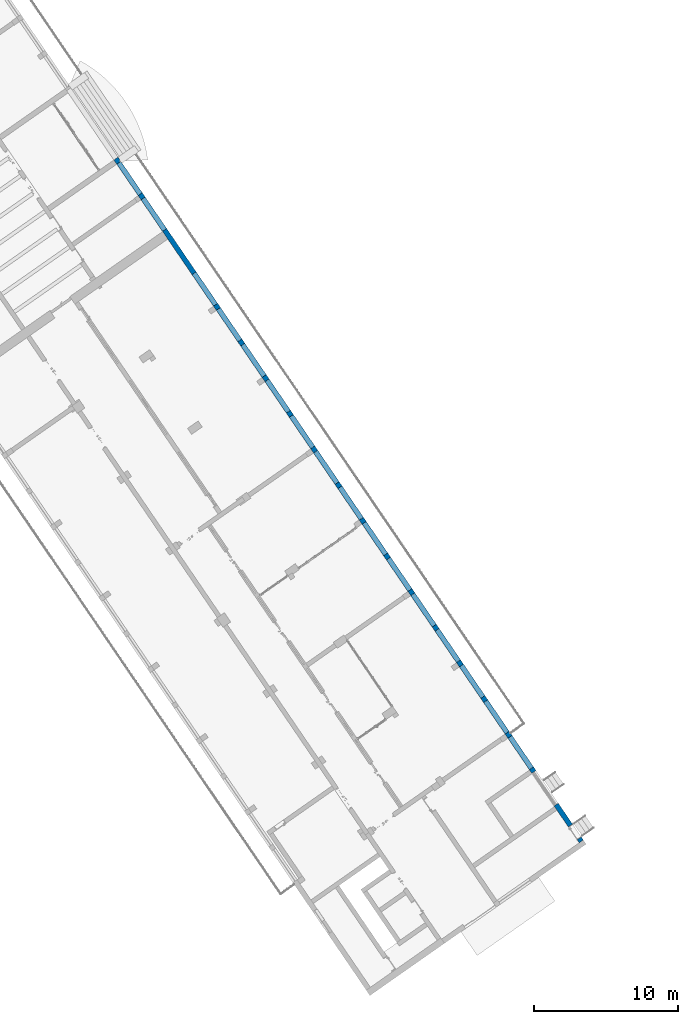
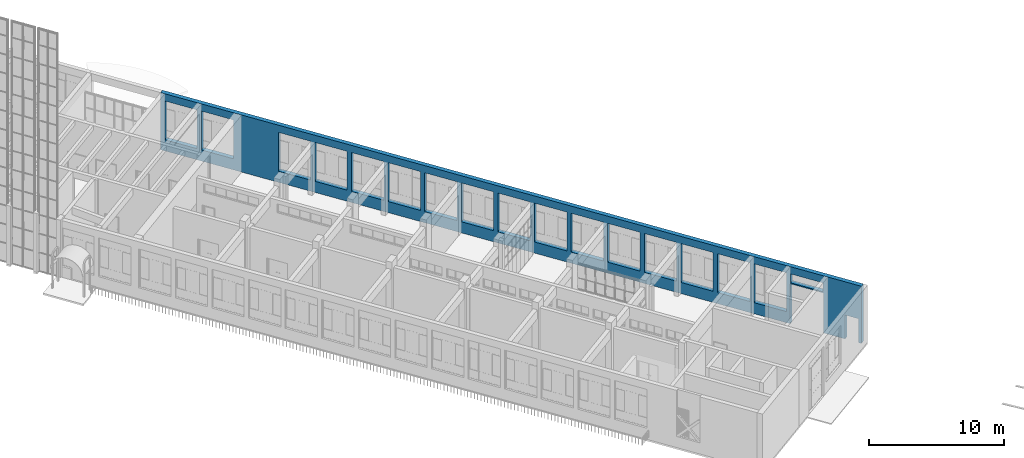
# One storey, part 85 of 157: 1 wall, 19 openings.
"""IFC2X3 building model written with IfcOpenShell, lengths in millimetres."""

import ifcopenshell
import ifcopenshell.guid

model = None  # the IFC model being written
_history = None  # IfcOwnerHistory: only IFC2X3 demands one
_inside = {}  # id of a spatial element -> (the spatial element, [elements in it])
_under = {}  # id of a project, library or spatial element -> (it, [spatial elements below it])
_declared = {}  # id of a project -> (the project, [libraries it declares])
_typed = {}  # id of a type object -> (the type object, [elements of that type])
_made_of = {}  # id of a material, layer set ... -> (it, [elements and type objects made of it])


def new_model(schema):
    """Start an empty IFC model of exactly this schema.

    Asked for "IFC4X3", IfcOpenShell would pick the latest addendum, in which some entities
    have other attributes; the version numbers below select the first issue.
    IFC2X3 requires an IfcOwnerHistory on every rooted entity: one is made here for all.
    """
    global model, _history
    if schema == "IFC4X3":
        model = ifcopenshell.file(schema_version=(4, 3, 0, 0))
    else:
        model = ifcopenshell.file(schema=schema)
    _inside.clear()
    _under.clear()
    _declared.clear()
    _typed.clear()
    _made_of.clear()
    _history = None
    if model.schema == "IFC2X3":
        org = make("IfcOrganization", Name="unknown")
        user = make(
            "IfcPersonAndOrganization",
            ThePerson=make("IfcPerson", FamilyName="unknown"),
            TheOrganization=org,
        )
        app = make(
            "IfcApplication",
            ApplicationDeveloper=org,
            Version="unknown",
            ApplicationFullName="unknown",
            ApplicationIdentifier="unknown",
        )
        _history = make(
            "IfcOwnerHistory",
            OwningUser=user,
            OwningApplication=app,
            ChangeAction="ADDED",
            CreationDate=0,
        )
    return model


def make(cls, **values):
    """One entity of the class cls with the attributes given. An attribute that is None is left unset."""
    return model.create_entity(
        cls, **{name: value for name, value in values.items() if value is not None}
    )


def entity(cls, *values):
    """Any entity or typed value of the class cls, its attributes in the order of the schema. None: left unset."""
    e = model.create_entity(cls)
    for i, value in enumerate(values):
        if value is not None:
            e[i] = value
    return e


def rooted(cls, **values):
    """An entity with a GlobalId (a new one), such as an element, a storey or a relation."""
    return make(cls, GlobalId=ifcopenshell.guid.new(), OwnerHistory=_history, **values)


def si_unit(unit_type, name, prefix=None):
    """IfcSIUnit, for example si_unit("LENGTHUNIT", "METRE", prefix="MILLI")."""
    return make("IfcSIUnit", UnitType=unit_type, Prefix=prefix, Name=name)


def converted_unit(unit_type, name, factor, base, dimensions=None, offset=None):
    """IfcConversionBasedUnit, such as the inch: factor (a typed value) times the base unit."""
    return make(
        "IfcConversionBasedUnit"
        if offset is None
        else "IfcConversionBasedUnitWithOffset",
        ConversionOffset=offset,
        Dimensions=None
        if dimensions is None
        else entity("IfcDimensionalExponents", *dimensions),
        UnitType=unit_type,
        Name=name,
        ConversionFactor=make(
            "IfcMeasureWithUnit", ValueComponent=factor, UnitComponent=base
        ),
    )


def derived_unit(unit_type, elements):
    """IfcDerivedUnit: a product of units, each with its exponent."""
    return make(
        "IfcDerivedUnit",
        Elements=[
            make("IfcDerivedUnitElement", Unit=unit, Exponent=power)
            for unit, power in elements
        ],
        UnitType=unit_type,
    )


def assignment(units):
    """IfcUnitAssignment: the units of a project."""
    return None if units is None else make("IfcUnitAssignment", Units=units)


def point(xyz):
    """IfcCartesianPoint."""
    return None if xyz is None else make("IfcCartesianPoint", Coordinates=xyz)


def direction(xyz):
    """IfcDirection."""
    return None if xyz is None else make("IfcDirection", DirectionRatios=xyz)


def frame(location, z_axis=None, x_axis=None):
    """IfcAxis2Placement3D, a coordinate frame: its origin and axes. An axis left out is left unset."""
    return make(
        "IfcAxis2Placement3D",
        Location=point(location),
        Axis=direction(z_axis),
        RefDirection=direction(x_axis),
    )


def frame_2d(location, x_axis=None):
    """IfcAxis2Placement2D, a coordinate frame in the plane: its origin and x axis."""
    return make(
        "IfcAxis2Placement2D", Location=point(location), RefDirection=direction(x_axis)
    )


def origin():
    """The frame at (0, 0, 0) with its axes left unset."""
    return frame((0.0, 0.0, 0.0))


def place(relative_to, where):
    """IfcLocalPlacement: puts the frame where relative to a parent placement (None: the world)."""
    return make(
        "IfcLocalPlacement", PlacementRelTo=relative_to, RelativePlacement=where
    )


def context(
    kind, dimensions, precision=None, world=None, true_north=None, identifier=None
):
    """IfcGeometricRepresentationContext, for example the 3D "Model" context."""
    return make(
        "IfcGeometricRepresentationContext",
        ContextIdentifier=identifier,
        ContextType=kind,
        CoordinateSpaceDimension=dimensions,
        Precision=precision,
        WorldCoordinateSystem=world,
        TrueNorth=true_north,
    )


def subcontext(parent, identifier, kind, view, scale=None):
    """IfcGeometricRepresentationSubContext, for example "Body" below "Model"."""
    return make(
        "IfcGeometricRepresentationSubContext",
        ContextIdentifier=identifier,
        ContextType=kind,
        ParentContext=parent,
        TargetScale=scale,
        TargetView=view,
    )


def project(units=None, contexts=None):
    """IfcProject with its units and contexts."""
    return rooted(
        "IfcProject",
        Name="project",
        RepresentationContexts=contexts,
        UnitsInContext=assignment(units),
    )


def spatial(cls, under=None, at=None, **own):
    """A site, building, storey or space (cls), placed at a placement, below another one or the project."""
    s = rooted(cls, ObjectPlacement=at, **own)
    if under is not None:
        _under.setdefault(under.id(), (under, []))[1].append(s)
    return s


def polyline(points):
    """IfcPolyline through the points."""
    return make("IfcPolyline", Points=[point(p) for p in points])


def profile(cls, at=None, kind="AREA", **sizes):
    """A parametric profile (cls). Its sizes go by their IFC names, for example OverallWidth=200.0."""
    return make(cls, ProfileType=kind, Position=at, **sizes)


def rectangle(**sizes):
    """IfcRectangleProfileDef."""
    return profile("IfcRectangleProfileDef", **sizes)


def outline(outer, holes=None, kind="AREA"):
    """IfcArbitraryClosedProfileDef: a profile drawn as a closed curve; with holes, ...WithVoids."""
    if holes is None:
        return make("IfcArbitraryClosedProfileDef", ProfileType=kind, OuterCurve=outer)
    return make(
        "IfcArbitraryProfileDefWithVoids",
        ProfileType=kind,
        OuterCurve=outer,
        InnerCurves=holes,
    )


def extrude(swept, where, along, depth):
    """IfcExtrudedAreaSolid: the profile swept, set in the frame where, extruded along a direction by depth."""
    return make(
        "IfcExtrudedAreaSolid",
        SweptArea=swept,
        Position=where,
        ExtrudedDirection=direction(along),
        Depth=depth,
    )


def shape(context_of_items, identifier, shape_type, items):
    """IfcShapeRepresentation: the items that make up one representation, for example the "Body"."""
    return make(
        "IfcShapeRepresentation",
        ContextOfItems=context_of_items,
        RepresentationIdentifier=identifier,
        RepresentationType=shape_type,
        Items=items,
    )


def material(Name=None, Category=None):
    """IfcMaterial."""
    return make("IfcMaterial", Name=Name, Category=Category)


def layer(
    of_material, thickness, ventilated=None, Name=None, Category=None, Priority=None
):
    """IfcMaterialLayer: one layer of a wall or slab, of a material (None: an air gap)."""
    return make(
        "IfcMaterialLayer",
        Material=of_material,
        LayerThickness=thickness,
        IsVentilated=ventilated,
        Name=Name,
        Category=Category,
        Priority=Priority,
    )


def layer_set(layers, Name=None):
    """IfcMaterialLayerSet."""
    return make("IfcMaterialLayerSet", MaterialLayers=layers, LayerSetName=Name)


def layer_usage(for_layer_set, set_direction, sense, offset, extent=None):
    """IfcMaterialLayerSetUsage: how a layer set lies in its element."""
    return make(
        "IfcMaterialLayerSetUsage",
        ForLayerSet=for_layer_set,
        LayerSetDirection=set_direction,
        DirectionSense=sense,
        OffsetFromReferenceLine=offset,
        ReferenceExtent=extent,
    )


def made_of(thing, what):
    """Note that an element or type object is made of a material, layer set ...; save() writes the relation."""
    if what is not None:
        _made_of.setdefault(what.id(), (what, []))[1].append(thing)
    return thing


def type_object(cls, material=None, **own):
    """A type object (cls), such as IfcWallType, which elements share."""
    return made_of(rooted(cls, **own), material)


def element(
    cls,
    number,
    at=None,
    inside=None,
    cuts=None,
    type_object=None,
    material=None,
    context=None,
    identifier="Body",
    shape_type=None,
    held_by="IfcProductDefinitionShape",
    body=None,
    shapes=None,
    **own,
):
    """One element of the class cls, such as IfcWall. Its Tag is "e" and its number.

    at: its placement. inside: the storey or other place that contains it. cuts: it is an
    opening in that element (IfcRelVoidsElement). A single representation is given by context,
    identifier, shape_type and body (its items); several are given by shapes. held_by: the class
    of the entity that holds the representations. save() writes the other relations.
    """
    e = rooted(cls, Tag="e%d" % number, ObjectPlacement=at, **own)
    if body is not None:
        shapes = [shape(context, identifier, shape_type, body)]
    if shapes is not None:
        e.Representation = make(held_by, Representations=shapes)
    if inside is not None:
        _inside.setdefault(inside.id(), (inside, []))[1].append(e)
    if cuts is not None:
        rooted(
            "IfcRelVoidsElement", RelatingBuildingElement=cuts, RelatedOpeningElement=e
        )
    if type_object is not None:
        _typed.setdefault(type_object.id(), (type_object, []))[1].append(e)
    return made_of(e, material)


def aggregate(whole, parts):
    """IfcRelAggregates: a whole, such as a stair, and the parts it consists of."""
    return rooted("IfcRelAggregates", RelatingObject=whole, RelatedObjects=parts)


def save(model, path):
    """Write the relations noted so far, then the file.

    IfcRelAggregates (storeys below a building ...), IfcRelContainedInSpatialStructure (elements
    in a storey), IfcRelDefinesByType, IfcRelAssociatesMaterial and IfcRelDeclares: one each for
    every whole, place, type object, material and project.
    """
    for whole, parts in _under.values():
        aggregate(whole, parts)
    for where, things in _inside.values():
        rooted(
            "IfcRelContainedInSpatialStructure",
            RelatedElements=things,
            RelatingStructure=where,
        )
    for kind, things in _typed.values():
        rooted("IfcRelDefinesByType", RelatedObjects=things, RelatingType=kind)
    for what, things in _made_of.values():
        rooted("IfcRelAssociatesMaterial", RelatedObjects=things, RelatingMaterial=what)
    for by, libraries in _declared.values():
        rooted("IfcRelDeclares", RelatingContext=by, RelatedDefinitions=libraries)
    model.write(path)


model = new_model("IFC2X3")

# Units and contexts
model_context = context("Model", 3, precision=0.01, world=origin(), true_north=direction((6.123031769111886e-17, 1.0)))
body_context = subcontext(model_context, "Body", "Model", "MODEL_VIEW")
ifc_project = project(units=[si_unit("LENGTHUNIT", "METRE", prefix="MILLI"), si_unit("AREAUNIT", "SQUARE_METRE"), si_unit("VOLUMEUNIT", "CUBIC_METRE"), converted_unit("PLANEANGLEUNIT", "DEGREE", entity("IfcRatioMeasure", 0.017453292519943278), si_unit("PLANEANGLEUNIT", "RADIAN"), dimensions=[0, 0, 0, 0, 0, 0, 0]), si_unit("MASSUNIT", "GRAM", prefix="KILO"), derived_unit("MASSDENSITYUNIT", [(si_unit("MASSUNIT", "GRAM", prefix="KILO"), 1), (si_unit("LENGTHUNIT", "METRE"), -3)]), derived_unit("MOMENTOFINERTIAUNIT", [(si_unit("LENGTHUNIT", "METRE"), 4)]), si_unit("TIMEUNIT", "SECOND"), si_unit("FREQUENCYUNIT", "HERTZ"), si_unit("THERMODYNAMICTEMPERATUREUNIT", "DEGREE_CELSIUS"), derived_unit("THERMALTRANSMITTANCEUNIT", [(si_unit("MASSUNIT", "GRAM", prefix="KILO"), 1), (si_unit("THERMODYNAMICTEMPERATUREUNIT", "KELVIN"), -1), (si_unit("TIMEUNIT", "SECOND"), -3)]), derived_unit("THERMALCONDUCTANCEUNIT", [(si_unit("MASSUNIT", "GRAM", prefix="KILO"), 1), (si_unit("LENGTHUNIT", "METRE"), 1), (si_unit("THERMODYNAMICTEMPERATUREUNIT", "KELVIN"), -1), (si_unit("TIMEUNIT", "SECOND"), -3)]), derived_unit("VOLUMETRICFLOWRATEUNIT", [(si_unit("LENGTHUNIT", "METRE"), 3), (si_unit("TIMEUNIT", "SECOND"), -1)]), derived_unit("MASSFLOWRATEUNIT", [(si_unit("MASSUNIT", "GRAM", prefix="KILO"), 1), (si_unit("TIMEUNIT", "SECOND"), -1)]), derived_unit("ROTATIONALFREQUENCYUNIT", [(si_unit("TIMEUNIT", "SECOND"), -1)]), si_unit("ELECTRICCURRENTUNIT", "AMPERE"), si_unit("ELECTRICVOLTAGEUNIT", "VOLT"), si_unit("POWERUNIT", "WATT"), converted_unit("FORCEUNIT", "KIP", entity("IfcRatioMeasure", 2.088543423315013e-05), si_unit("FORCEUNIT", "NEWTON"), dimensions=[1, 1, -2, 0, 0, 0, 0]), si_unit("ILLUMINANCEUNIT", "LUX"), si_unit("LUMINOUSFLUXUNIT", "LUMEN"), si_unit("LUMINOUSINTENSITYUNIT", "CANDELA"), derived_unit("USERDEFINED", [(si_unit("MASSUNIT", "GRAM", prefix="KILO"), -1), (si_unit("LENGTHUNIT", "METRE"), -2), (si_unit("TIMEUNIT", "SECOND"), 3), (si_unit("LUMINOUSFLUXUNIT", "LUMEN"), 1)]), derived_unit("USERDEFINED", [(si_unit("MASSUNIT", "GRAM", prefix="KILO"), 1), (si_unit("LENGTHUNIT", "METRE"), 3), (si_unit("TIMEUNIT", "SECOND"), -3), (si_unit("ELECTRICCURRENTUNIT", "AMPERE"), -2)]), derived_unit("USERDEFINED", [(si_unit("LENGTHUNIT", "METRE"), 2), (si_unit("TIMEUNIT", "SECOND"), -2)]), derived_unit("SOUNDPOWERUNIT", [(si_unit("MASSUNIT", "GRAM", prefix="KILO"), 1), (si_unit("LENGTHUNIT", "METRE"), 2), (si_unit("TIMEUNIT", "SECOND"), -3)]), derived_unit("SOUNDPRESSUREUNIT", [(si_unit("MASSUNIT", "GRAM", prefix="KILO"), 1), (si_unit("LENGTHUNIT", "METRE"), -1), (si_unit("TIMEUNIT", "SECOND"), -2)]), derived_unit("LINEARVELOCITYUNIT", [(si_unit("LENGTHUNIT", "METRE"), 1), (si_unit("TIMEUNIT", "SECOND"), -1)]), si_unit("PRESSUREUNIT", "PASCAL"), derived_unit("USERDEFINED", [(si_unit("LENGTHUNIT", "METRE"), -2), (si_unit("MASSUNIT", "GRAM", prefix="KILO"), 1), (si_unit("TIMEUNIT", "SECOND"), -2)]), derived_unit("LINEARFORCEUNIT", [(si_unit("MASSUNIT", "GRAM", prefix="KILO"), 1), (si_unit("LENGTHUNIT", "METRE"), 1), (si_unit("TIMEUNIT", "SECOND"), -2), (si_unit("LENGTHUNIT", "METRE"), -1)]), derived_unit("PLANARFORCEUNIT", [(si_unit("MASSUNIT", "GRAM", prefix="KILO"), 1), (si_unit("LENGTHUNIT", "METRE"), 1), (si_unit("TIMEUNIT", "SECOND"), -2), (si_unit("LENGTHUNIT", "METRE"), -2)]), derived_unit("SPECIFICHEATCAPACITYUNIT", [(si_unit("LENGTHUNIT", "METRE"), 2), (si_unit("TIMEUNIT", "SECOND"), -2), (si_unit("THERMODYNAMICTEMPERATUREUNIT", "KELVIN"), -1)]), derived_unit("VAPORPERMEABILITYUNIT", [(si_unit("TIMEUNIT", "SECOND"), 1), (si_unit("LENGTHUNIT", "METRE"), -1)]), derived_unit("DYNAMICVISCOSITYUNIT", [(si_unit("MASSUNIT", "GRAM", prefix="KILO"), 1), (si_unit("LENGTHUNIT", "METRE"), -1), (si_unit("TIMEUNIT", "SECOND"), -1)]), derived_unit("THERMALEXPANSIONCOEFFICIENTUNIT", [(si_unit("THERMODYNAMICTEMPERATUREUNIT", "KELVIN"), -1)])], contexts=[model_context])

# Site, building, storey
site_placement = place(None, frame((0.0, 0.0, 0.0), z_axis=(0.0, 0.0, 1.0), x_axis=(0.8191520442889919, 0.5735764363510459, 0.0)))
site = spatial("IfcSite", under=ifc_project, at=site_placement, Name="Default", CompositionType="ELEMENT")
building_placement = place(site_placement, origin())
building = spatial("IfcBuilding", under=site, at=building_placement, CompositionType="ELEMENT")
storey_placement = place(building_placement, origin())
storey = spatial("IfcBuildingStorey", under=building, at=storey_placement, Name="1.EG +0.00", CompositionType="ELEMENT", Elevation=-4.331468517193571e-12)

# Wall, openings
ifc_material = material(Name="Analytical Wall Surface_CJC")
ifc_layer = layer(ifc_material, 350.0)
ifc_layer_set = layer_set([ifc_layer], Name="Basic Wall:Wand_Aussen_35")
ifc_layer_usage = layer_usage(ifc_layer_set, "AXIS2", "POSITIVE", -175.0)
wall_type = type_object("IfcWallType", Name="Basic Wall:Wand_Aussen_35", PredefinedType="STANDARD", material=ifc_layer_set)
wall_placement = place(storey_placement, frame((-205725.4928050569, 52419.135448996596, 0.0), z_axis=(0.0, 0.0, 1.0), x_axis=(0.012705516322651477, 0.9999192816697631, 0.0)))
wall = element("IfcWallStandardCase", 1, at=wall_placement, inside=storey, type_object=wall_type, material=ifc_layer_usage, Name="Basic Wall:Wand_Aussen_35", ObjectType="Basic Wall:Wand_Aussen_35", context=body_context, shape_type="SweptSolid", body=[
    extrude(outline(polyline([(4.447289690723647, -175.0), (57459.084932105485, -175.0), (57454.637642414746, 175.0), (57104.60938871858, 175.0), (54454.395467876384, 175.0), (54104.36721418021, 175.0), (51434.15167884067, 175.0), (50804.10082218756, 175.0), (9150.738632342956, 175.0), (8800.710378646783, 175.0), (6125.494439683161, 175.0), (5825.470222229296, 175.0), (3050.2462107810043, 175.0), (2750.221993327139, 175.0), (0.0, 175.0), (4.447289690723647, -175.0)])), origin(), (0.0, 0.0, 1.0), 5150.000000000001),
])
opening_1_placement = place(wall_placement, frame((257.9846917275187, -175.0, 0.0)))
element("IfcOpeningElement", 2, at=opening_1_placement, cuts=wall, Name="Doors_IntSgl:100x210:1", ObjectType="Opening", context=body_context, shape_type="SweptSolid", body=[
    extrude(rectangle(XDim=2150.000000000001, YDim=1079.9999999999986, at=frame_2d((1075.0000000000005, 539.9999999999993), x_axis=(1.0, 0.0))), frame((0.0, 0.0, 0.0), z_axis=(0.0, 1.0, 0.0), x_axis=(0.0, 0.0, 1.0)), (0.0, 0.0, 1.0), 349.99999999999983),
])
opening_2_placement = place(wall_placement, frame((3103.0685647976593, -175.0, 0.0)))
element("IfcOpeningElement", 3, at=opening_2_placement, cuts=wall, Name="M_Door-Exterior-Double:265x350:1", ObjectType="Opening", context=body_context, shape_type="SweptSolid", body=[
    extrude(rectangle(XDim=3600.0000000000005, YDim=2749.9999999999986, at=frame_2d((1800.0000000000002, 1374.9999999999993), x_axis=(1.0, 0.0))), frame((0.0, 0.0, 0.0), z_axis=(0.0, 1.0, 0.0), x_axis=(0.0, 0.0, 1.0)), (0.0, 0.0, 1.0), 349.99999999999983),
])
opening_3_placement = place(wall_placement, frame((57106.6003814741, 175.0, 1000.0)))
element("IfcOpeningElement", 4, at=opening_3_placement, cuts=wall, Name="Fenster_Aussen_CJC:Fenster_Aussen_CJC_265x350:1", ObjectType="Opening", context=body_context, shape_type="SweptSolid", body=[
    extrude(rectangle(XDim=3499.999999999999, YDim=2650.0000000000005, at=frame_2d((1749.9999999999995, 1325.0000000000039), x_axis=(1.0, 0.0))), frame((0.0, 0.0, 0.0), z_axis=(0.0, -1.0, 0.0), x_axis=(0.0, 0.0, 1.0)), (0.0, 0.0, 1.0), 349.99999999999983),
])
opening_4_placement = place(wall_placement, frame((8803.068564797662, 175.0, 1000.0)))
element("IfcOpeningElement", 5, at=opening_4_placement, cuts=wall, Name="Fenster_Aussen_CJC:Fenster_Aussen_CJC_265x350:1", ObjectType="Opening", context=body_context, shape_type="SweptSolid", body=[
    extrude(rectangle(XDim=3499.999999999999, YDim=2650.0000000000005, at=frame_2d((1749.9999999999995, 1325.0000000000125), x_axis=(1.0, 0.0))), frame((0.0, 0.0, 0.0), z_axis=(0.0, -1.0, 0.0), x_axis=(0.0, 0.0, 1.0)), (0.0, 0.0, 1.0), 349.99999999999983),
])
opening_5_placement = place(wall_placement, frame((3153.0685647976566, -175.0, 3700.0)))
element("IfcOpeningElement", 6, at=opening_5_placement, cuts=wall, Name="Fenster_Aussen_CJC_TOPONLY:Fenster_Aussen_CJC_TOPONLY:1", ObjectType="Opening", context=body_context, shape_type="SweptSolid", body=[
    extrude(rectangle(XDim=800.0, YDim=2650.000000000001, at=frame_2d((400.0, 1325.0000000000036), x_axis=(1.0, 0.0))), frame((0.0, 0.0, 0.0), z_axis=(0.0, 1.0, 0.0), x_axis=(0.0, 0.0, 1.0)), (0.0, 0.0, 1.0), 349.99999999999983),
])
opening_6_placement = place(wall_placement, frame((14803.06856479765, 175.0, 1000.0)))
element("IfcOpeningElement", 7, at=opening_6_placement, cuts=wall, Name="Fenster_Aussen_CJC:Fenster_Aussen_CJC_265x350:1", ObjectType="Opening", context=body_context, shape_type="SweptSolid", body=[
    extrude(rectangle(XDim=3499.999999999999, YDim=2650.0000000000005, at=frame_2d((1749.9999999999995, 1325.0000000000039), x_axis=(1.0, 0.0))), frame((0.0, 0.0, 0.0), z_axis=(0.0, -1.0, 0.0), x_axis=(0.0, 0.0, 1.0)), (0.0, 0.0, 1.0), 349.99999999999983),
])
opening_7_placement = place(wall_placement, frame((11803.068564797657, 175.0, 1000.0)))
element("IfcOpeningElement", 8, at=opening_7_placement, cuts=wall, Name="Fenster_Aussen_CJC:Fenster_Aussen_CJC_265x350:1", ObjectType="Opening", context=body_context, shape_type="SweptSolid", body=[
    extrude(rectangle(XDim=3499.999999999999, YDim=2650.0000000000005, at=frame_2d((1749.9999999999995, 1325.0000000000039), x_axis=(1.0, 0.0))), frame((0.0, 0.0, 0.0), z_axis=(0.0, -1.0, 0.0), x_axis=(0.0, 0.0, 1.0)), (0.0, 0.0, 1.0), 349.99999999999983),
])
opening_8_placement = place(wall_placement, frame((20803.068564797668, 175.0, 1000.0)))
element("IfcOpeningElement", 9, at=opening_8_placement, cuts=wall, Name="Fenster_Aussen_CJC:Fenster_Aussen_CJC_265x350:1", ObjectType="Opening", context=body_context, shape_type="SweptSolid", body=[
    extrude(rectangle(XDim=3499.999999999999, YDim=2650.0, at=frame_2d((1749.9999999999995, 1324.9999999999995), x_axis=(1.0, 0.0))), frame((0.0, 0.0, 0.0), z_axis=(0.0, -1.0, 0.0), x_axis=(0.0, 0.0, 1.0)), (0.0, 0.0, 1.0), 349.99999999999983),
])
opening_9_placement = place(wall_placement, frame((17803.06856479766, 175.0, 1000.0)))
element("IfcOpeningElement", 10, at=opening_9_placement, cuts=wall, Name="Fenster_Aussen_CJC:Fenster_Aussen_CJC_265x350:1", ObjectType="Opening", context=body_context, shape_type="SweptSolid", body=[
    extrude(rectangle(XDim=3499.999999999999, YDim=2650.0000000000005, at=frame_2d((1749.9999999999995, 1325.0000000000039), x_axis=(1.0, 0.0))), frame((0.0, 0.0, 0.0), z_axis=(0.0, -1.0, 0.0), x_axis=(0.0, 0.0, 1.0)), (0.0, 0.0, 1.0), 349.99999999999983),
])
opening_10_placement = place(wall_placement, frame((26803.797844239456, 175.0, 1000.0)))
element("IfcOpeningElement", 11, at=opening_10_placement, cuts=wall, Name="Fenster_Aussen_CJC:Fenster_Aussen_CJC_265x350:1", ObjectType="Opening", context=body_context, shape_type="SweptSolid", body=[
    extrude(rectangle(XDim=3499.999999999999, YDim=2650.0000000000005, at=frame_2d((1749.9999999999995, 1325.0000000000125), x_axis=(1.0, 0.0))), frame((0.0, 0.0, 0.0), z_axis=(0.0, -1.0, 0.0), x_axis=(0.0, 0.0, 1.0)), (0.0, 0.0, 1.0), 349.99999999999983),
])
opening_11_placement = place(wall_placement, frame((23803.797844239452, 175.0, 1000.0)))
element("IfcOpeningElement", 12, at=opening_11_placement, cuts=wall, Name="Fenster_Aussen_CJC:Fenster_Aussen_CJC_265x350:1", ObjectType="Opening", context=body_context, shape_type="SweptSolid", body=[
    extrude(rectangle(XDim=3499.999999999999, YDim=2650.0000000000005, at=frame_2d((1749.9999999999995, 1325.0000000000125), x_axis=(1.0, 0.0))), frame((0.0, 0.0, 0.0), z_axis=(0.0, -1.0, 0.0), x_axis=(0.0, 0.0, 1.0)), (0.0, 0.0, 1.0), 349.99999999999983),
])
opening_12_placement = place(wall_placement, frame((32804.28403053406, 175.0, 1000.0)))
element("IfcOpeningElement", 13, at=opening_12_placement, cuts=wall, Name="Fenster_Aussen_CJC:Fenster_Aussen_CJC_265x350:1", ObjectType="Opening", context=body_context, shape_type="SweptSolid", body=[
    extrude(rectangle(XDim=3499.999999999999, YDim=2650.0, at=frame_2d((1749.9999999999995, 1324.9999999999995), x_axis=(1.0, 0.0))), frame((0.0, 0.0, 0.0), z_axis=(0.0, -1.0, 0.0), x_axis=(0.0, 0.0, 1.0)), (0.0, 0.0, 1.0), 349.99999999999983),
])
opening_13_placement = place(wall_placement, frame((29804.284030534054, 175.0, 1000.0)))
element("IfcOpeningElement", 14, at=opening_13_placement, cuts=wall, Name="Fenster_Aussen_CJC:Fenster_Aussen_CJC_265x350:1", ObjectType="Opening", context=body_context, shape_type="SweptSolid", body=[
    extrude(rectangle(XDim=3499.999999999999, YDim=2650.0000000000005, at=frame_2d((1749.9999999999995, 1325.0000000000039), x_axis=(1.0, 0.0))), frame((0.0, 0.0, 0.0), z_axis=(0.0, -1.0, 0.0), x_axis=(0.0, 0.0, 1.0)), (0.0, 0.0, 1.0), 349.99999999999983),
])
opening_14_placement = place(wall_placement, frame((38804.284030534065, 175.0, 1000.0)))
element("IfcOpeningElement", 15, at=opening_14_placement, cuts=wall, Name="Fenster_Aussen_CJC:Fenster_Aussen_CJC_265x350:1", ObjectType="Opening", context=body_context, shape_type="SweptSolid", body=[
    extrude(rectangle(XDim=3499.999999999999, YDim=2650.0000000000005, at=frame_2d((1749.9999999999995, 1325.0000000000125), x_axis=(1.0, 0.0))), frame((0.0, 0.0, 0.0), z_axis=(0.0, -1.0, 0.0), x_axis=(0.0, 0.0, 1.0)), (0.0, 0.0, 1.0), 349.99999999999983),
])
opening_15_placement = place(wall_placement, frame((35804.28403053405, 175.0, 1000.0)))
element("IfcOpeningElement", 16, at=opening_15_placement, cuts=wall, Name="Fenster_Aussen_CJC:Fenster_Aussen_CJC_265x350:1", ObjectType="Opening", context=body_context, shape_type="SweptSolid", body=[
    extrude(rectangle(XDim=3499.999999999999, YDim=2650.0000000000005, at=frame_2d((1749.9999999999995, 1325.0000000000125), x_axis=(1.0, 0.0))), frame((0.0, 0.0, 0.0), z_axis=(0.0, -1.0, 0.0), x_axis=(0.0, 0.0, 1.0)), (0.0, 0.0, 1.0), 349.99999999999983),
])
opening_16_placement = place(wall_placement, frame((44804.77021682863, 175.0, 1000.0)))
element("IfcOpeningElement", 17, at=opening_16_placement, cuts=wall, Name="Fenster_Aussen_CJC:Fenster_Aussen_CJC_265x350:1", ObjectType="Opening", context=body_context, shape_type="SweptSolid", body=[
    extrude(rectangle(XDim=3499.999999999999, YDim=2650.0000000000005, at=frame_2d((1749.9999999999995, 1325.0000000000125), x_axis=(1.0, 0.0))), frame((0.0, 0.0, 0.0), z_axis=(0.0, -1.0, 0.0), x_axis=(0.0, 0.0, 1.0)), (0.0, 0.0, 1.0), 349.99999999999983),
])
opening_17_placement = place(wall_placement, frame((41804.77021682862, 175.0, 1000.0)))
element("IfcOpeningElement", 18, at=opening_17_placement, cuts=wall, Name="Fenster_Aussen_CJC:Fenster_Aussen_CJC_265x350:1", ObjectType="Opening", context=body_context, shape_type="SweptSolid", body=[
    extrude(rectangle(XDim=3499.999999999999, YDim=2650.0000000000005, at=frame_2d((1749.9999999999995, 1325.0000000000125), x_axis=(1.0, 0.0))), frame((0.0, 0.0, 0.0), z_axis=(0.0, -1.0, 0.0), x_axis=(0.0, 0.0, 1.0)), (0.0, 0.0, 1.0), 349.99999999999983),
])
opening_18_placement = place(wall_placement, frame((47805.57533870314, 175.0, 1000.0)))
element("IfcOpeningElement", 19, at=opening_18_placement, cuts=wall, Name="Fenster_Aussen_CJC:Fenster_Aussen_CJC_265x350:1", ObjectType="Opening", context=body_context, shape_type="SweptSolid", body=[
    extrude(rectangle(XDim=3499.999999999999, YDim=2650.0000000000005, at=frame_2d((1749.9999999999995, 1325.0000000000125), x_axis=(1.0, 0.0))), frame((0.0, 0.0, 0.0), z_axis=(0.0, -1.0, 0.0), x_axis=(0.0, 0.0, 1.0)), (0.0, 0.0, 1.0), 349.99999999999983),
])
opening_19_placement = place(wall_placement, frame((54106.60038147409, 175.0, 1000.0)))
element("IfcOpeningElement", 20, at=opening_19_placement, cuts=wall, Name="Fenster_Aussen_CJC:Fenster_Aussen_CJC_265x350:1", ObjectType="Opening", context=body_context, shape_type="SweptSolid", body=[
    extrude(rectangle(XDim=3499.999999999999, YDim=2650.0000000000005, at=frame_2d((1749.9999999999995, 1325.0000000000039), x_axis=(1.0, 0.0))), frame((0.0, 0.0, 0.0), z_axis=(0.0, -1.0, 0.0), x_axis=(0.0, 0.0, 1.0)), (0.0, 0.0, 1.0), 349.99999999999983),
])

save(model, "model.ifc")
